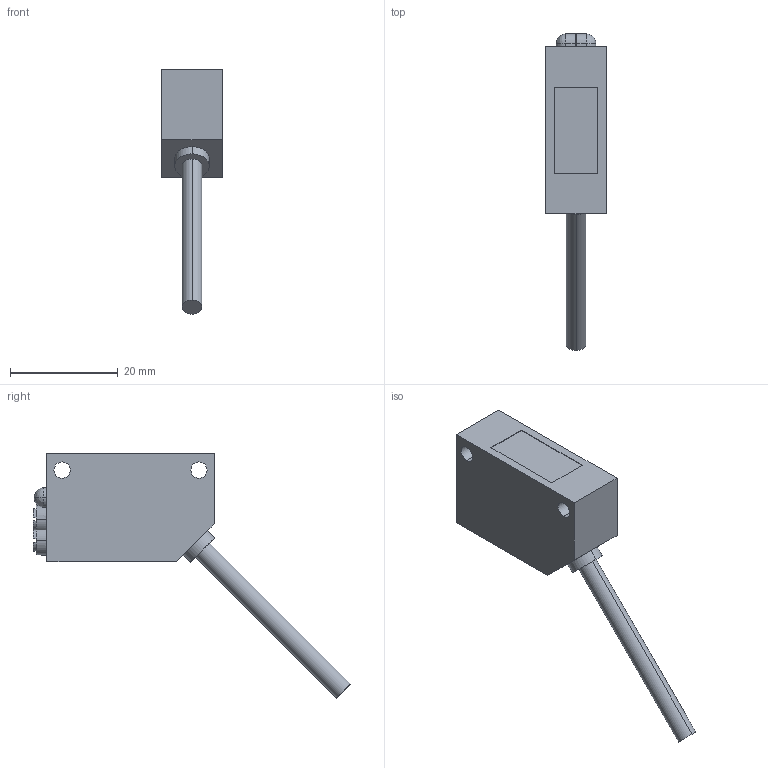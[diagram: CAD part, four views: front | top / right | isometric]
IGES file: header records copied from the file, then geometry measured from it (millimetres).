
Start section: SolidWorks IGES FILE using analytic representation for surfaces
Global section: file name: \\Intra-srv04\開発データ\CAD_Data\CAD委員会\3D電子ｶﾀﾛｸﾞ\製品カタログ（新）\0_IGES\CX-491.IGS,41HSolidWorks 2004; native system: by SolidWorks Corporation; preprocessor: Version 5.3; author: yk0651; date: 050905.114000; units: millimetre
Bounding box: 11.2 x 58.81 x 45.31 mm (x, y, z)
Volume: 7096.5 mm3; surface area: 3030.7 mm2
Topology: 1 solids, 1 shells, 62 faces, 155 edges, 98 vertices
Faces by surface type: revolution 33, plane 29
